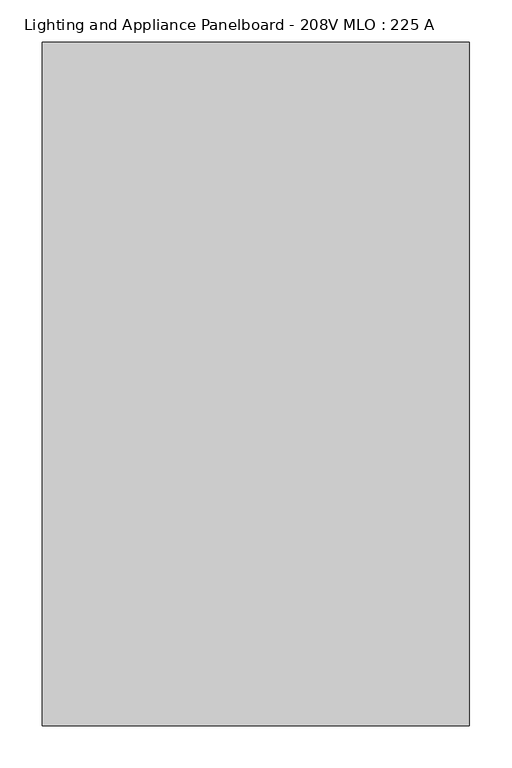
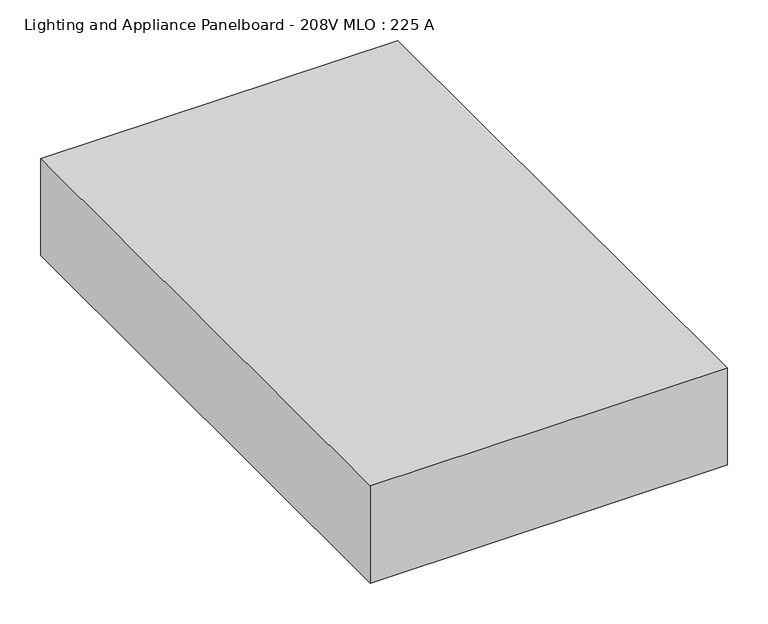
"""IFC4 building model written with IfcOpenShell, lengths in millimetres: proxy geometry, Lighting and Appliance Panelboard - 208V MLO : 225 A."""

from ifc_helpers import new_model, si_unit, frame, origin, place, context, project, spatial, polyline, outline, extrude, source, transform, mapped, element, save


def lighting_and_appliance_panelboard_208v_mlo_225_a_45642533(model_context):
    return source(origin(), model_context, "Body", "SweptSolid", [
        extrude(outline(polyline([(254.0, 406.4), (254.0, -406.4), (-254.0, -406.4), (-254.0, 406.4), (254.0, 406.4)])), frame((0.0, 0.0, -146.05), z_axis=(0.0, 0.0, 1.0), x_axis=(1.0, 0.0, 0.0)), (0.0, 0.0, 1.0), 146.05),
    ])


if __name__ == "__main__":
    model = new_model("IFC4")
    model_context = context("Model", 3, world=origin())
    ifc_project = project(units=[si_unit("LENGTHUNIT", "METRE", prefix="MILLI")], contexts=[model_context])
    site = spatial("IfcSite", under=ifc_project)
    building = spatial("IfcBuilding", under=site)
    placement = place(None, origin())
    lighting_and_appliance_panelboard_208v_mlo_225_a_shape = lighting_and_appliance_panelboard_208v_mlo_225_a_45642533(model_context)
    element("IfcBuildingElementProxy", 1, Name="Lighting and Appliance Panelboard - 208V MLO : 225 A", ObjectType="Lighting and Appliance Panelboard - 208V MLO : 225 A", at=placement, inside=building, context=model_context, shape_type="MappedRepresentation", body=[
        mapped(lighting_and_appliance_panelboard_208v_mlo_225_a_shape, transform((0.0, 0.0, 0.0), x_axis=(1.0, 0.0, 0.0), y_axis=(0.0, 1.0, 0.0), z_axis=(0.0, 0.0, 1.0))),
    ])
    save(model, "model.ifc")
